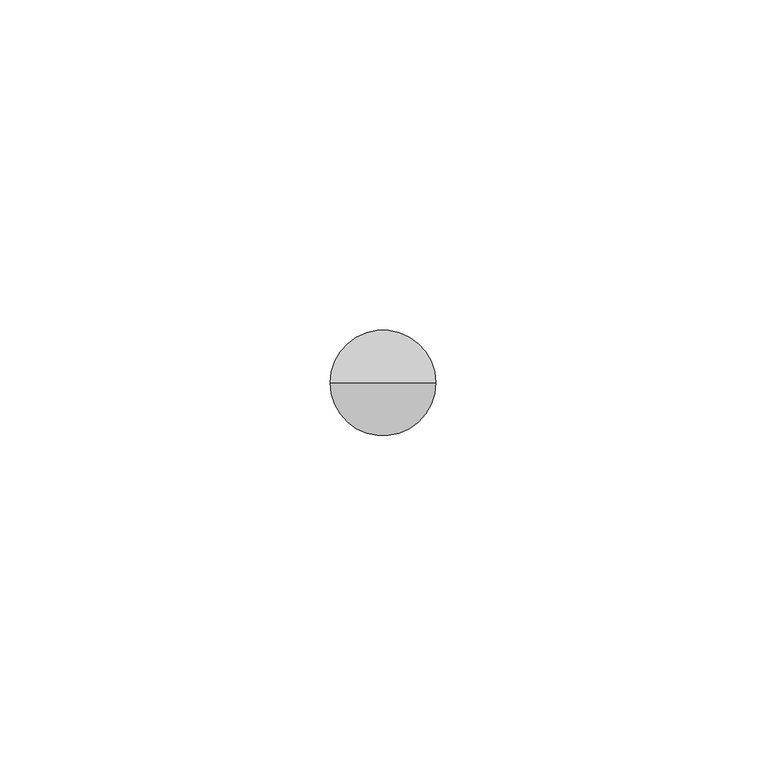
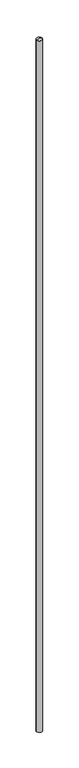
"""IFC4 building model written with IfcOpenShell, lengths in millimetres: proxy geometry, КНС_СтерженьМолниеприемный_DKC : NL2000_Алюминий_2м."""

from ifc_helpers import new_model, si_unit, frame, origin, origin_with_axes, place, context, project, spatial, polyline, circle_curve, source, transform, mapped, element, save
from ifc_brep_helpers import plane_surface, cylinder_surface, revolved_surface, advanced_brep


def security_devices_90d430a2(model_context):
    return source(origin(), model_context, "Body", "AdvancedBrep", [
        advanced_brep(
        [(-8.0, 0.0, 0.0), (8.0, 0.0, 0.0), (8.0, 0.0, 1995.3811978), (-8.0, 0.0, 1995.3811978), (0.0, 0.0, 2000.0)],
        [
            (0, 1, circle_curve(frame((0.0, 0.0, 0.0), z_axis=(0.0, 0.0, -1.0), x_axis=(1.0, 0.0, 0.0)), 8.0)),
            (1, 0, circle_curve(frame((0.0, 0.0, 0.0), z_axis=(0.0, 0.0, -1.0), x_axis=(1.0, 0.0, 0.0)), 8.0)),
            (1, 2),
            (2, 3, circle_curve(frame((0.0, 0.0, 1995.3811978), z_axis=(0.0, 0.0, -1.0), x_axis=(1.0, 0.0, 0.0)), 8.0)),
            (3, 0),
            (3, 2, circle_curve(frame((0.0, 0.0, 1995.3811978), z_axis=(0.0, 0.0, -1.0), x_axis=(1.0, 0.0, 0.0)), 8.0)),
            (3, 4),
            (4, 2),
        ],
        [
            plane_surface(frame((8.0, 0.0, 0.0), z_axis=(0.0, 0.0, -1.0), x_axis=(0.0, -1.0, 0.0))),
            cylinder_surface(origin_with_axes(), 8.0),
            revolved_surface(polyline([(12.9903811, 0.0, 1992.5), (0.0, 0.0, 2000.0)]), (0.0, 0.0, 4938.9550208), (0.0, 0.0, 1.0)),
        ],
        [
            (0, [[1, 2]]),
            (1, [[-2, 3, 4, 5]]),
            (1, [[-1, -5, 6, -3]]),
            (2, [[7, 8, -6]]),
            (2, [[-7, -4, -8]]),
        ],
    ),
    ])


if __name__ == "__main__":
    model = new_model("IFC4")
    model_context = context("Model", 3, world=origin())
    ifc_project = project(units=[si_unit("LENGTHUNIT", "METRE", prefix="MILLI")], contexts=[model_context])
    site = spatial("IfcSite", under=ifc_project)
    building = spatial("IfcBuilding", under=site)
    placement = place(None, origin())
    security_devices_shape = security_devices_90d430a2(model_context)
    element("IfcBuildingElementProxy", 1, Name="КНС_СтерженьМолниеприемный_DKC : NL2000_Алюминий_2м", ObjectType="КНС_СтерженьМолниеприемный_DKC : NL2000_Алюминий_2м", at=placement, inside=building, context=model_context, shape_type="MappedRepresentation", body=[
        mapped(security_devices_shape, transform((0.0, 0.0, 0.0), x_axis=(1.0, 0.0, 0.0), y_axis=(0.0, 1.0, 0.0), z_axis=(0.0, 0.0, 1.0))),
    ])
    save(model, "model.ifc")
